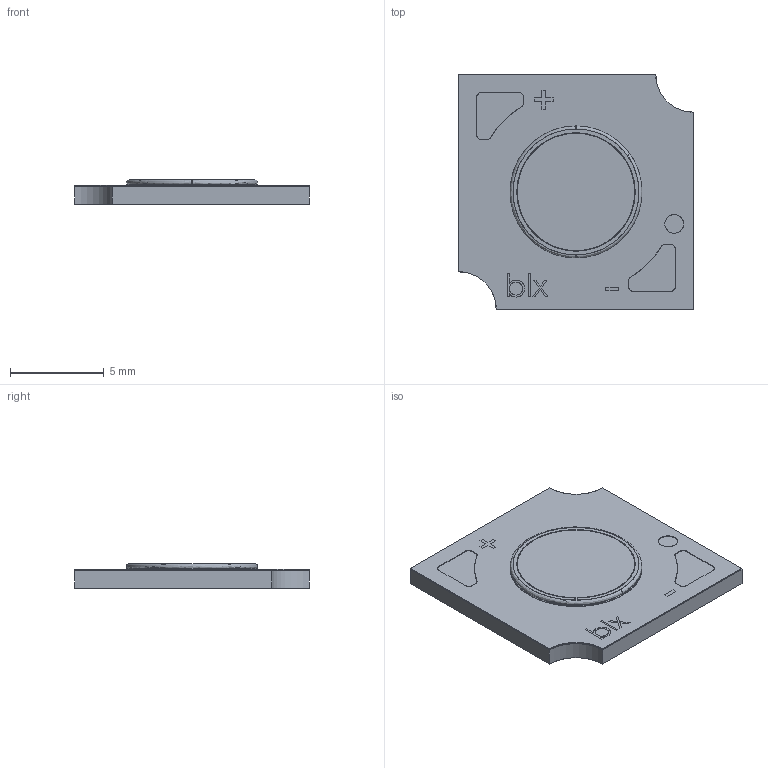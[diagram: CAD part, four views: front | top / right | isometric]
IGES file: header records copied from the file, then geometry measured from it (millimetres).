
Start section: SolidWorks IGES file using analytic representation for surfaces
Global section: file name: D:\Users\5160206\Desktop\3D document\GEN8\Assembly\V6\GEN8 V6 Assembly.IGS; native system: SolidWorks 2018; preprocessor: SolidWorks 2018; author: 5160206; date: 200909.145642; units: millimetre
Bounding box: 12.5 x 12.5 x 1.29 mm (x, y, z)
Surface area: 586.8 mm2 (no closed solid volume)
Topology: 0 solids, 0 shells, 148 faces, 1474 edges, 1474 vertices
Faces by surface type: bspline 80, revolution 68
